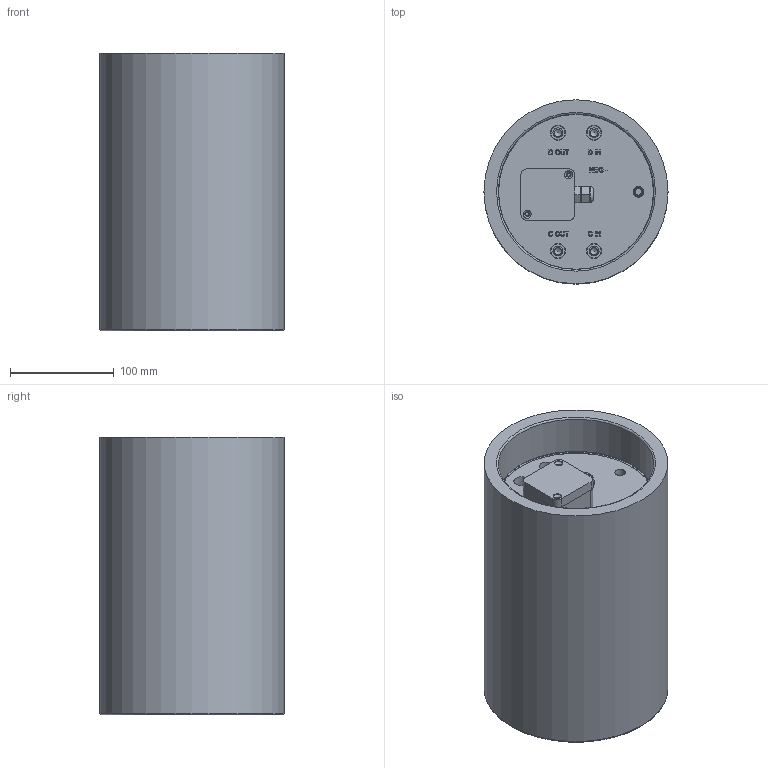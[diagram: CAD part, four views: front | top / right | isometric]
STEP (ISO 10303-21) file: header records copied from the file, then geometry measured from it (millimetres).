
FILE_DESCRIPTION (( 'STEP AP214' ), '1' );
FILE_NAME ('IPMXM125.STEP', '2013-05-10T21:09:34', ( 'Siemens WT' ), ( 'Siemens WT' ), 'SwSTEP 2.0', 'SolidWorks 2012', '' );
FILE_SCHEMA (( 'AUTOMOTIVE_DESIGN' ));
Length unit declared in the file: inch
Products named in the file (7): IPMXM125; MX0015E_MX0007-1; MX0013D; MX0014D; MX0008; Bud PN-1330 Cover; 025 Cord Fitting
Assembly tree (9 placements, depth 2):
  IPMXM125
    MX0015E_MX0007-1
    MX0013D
    MX0014D
    MX0008  x2
    Bud PN-1330 Cover  x2
    025 Cord Fitting  x2
Bounding box: 177.8 x 177.8 x 268.33 mm (x, y, z)
Volume: 3026210 mm3; surface area: 464638.8 mm2
Topology: 9 solids, 9 shells, 692 faces, 1743 edges, 1161 vertices
Faces by surface type: plane 350, cylinder 218, bspline 93, cone 26, torus 5
Full cylindrical faces by diameter (mm): 2.286 x2, 3.3 x8, 3.734 x4, 4 x8, 4.3 x4, 4.369 x4, 6.35 x1, 6.528 x2, 6.858 x2, 6.909 x4, 7.87 x4, 7.95 x8, 8.433 x1, 8.89 x2, 9.525 x4, 11.506 x2, 12.217 x8, 12.7 x2, 15.24 x2, 141.605 x2, 149.555 x4, 150.241 x3, 153.873 x2, 177.8 x1
Entity records: 23351 total; most frequent: CARTESIAN_POINT 9702, ORIENTED_EDGE 2662, DIRECTION 2471, EDGE_CURVE 1331, VERTEX_POINT 937, AXIS2_PLACEMENT_3D 836, LINE 799, VECTOR 799
